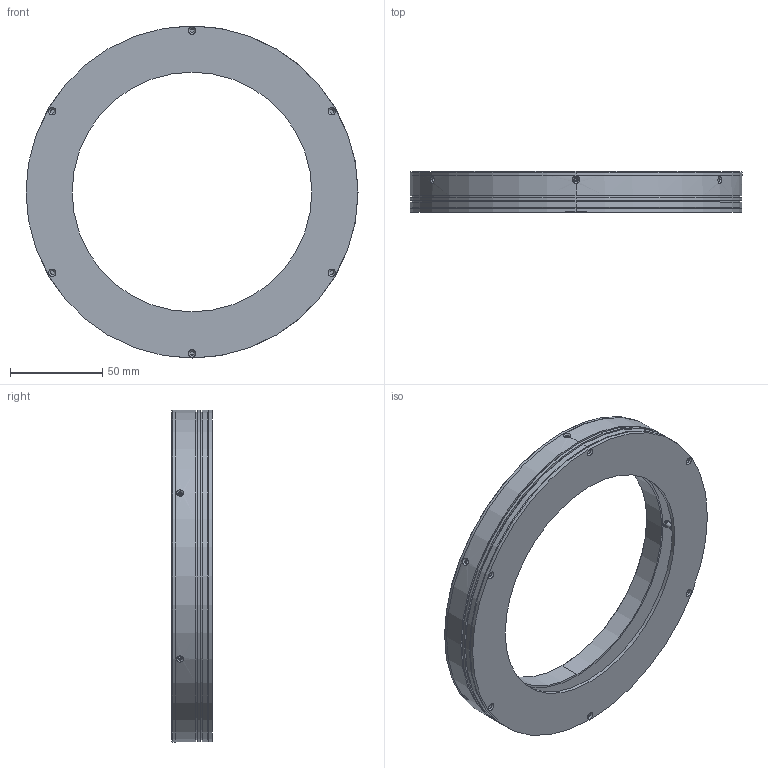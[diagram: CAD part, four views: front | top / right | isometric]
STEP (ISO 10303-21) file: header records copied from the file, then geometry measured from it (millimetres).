
FILE_DESCRIPTION (( 'STEP AP203' ), '1' );
FILE_NAME ('CRT-RL18090-¼òÒ×3DÍ¼.STEP', '2021-12-21T10:13:48', ( 'Admin' ), ( '' ), 'SwSTEP 2.0', 'SolidWorks 2018', '' );
FILE_SCHEMA (( 'CONFIG_CONTROL_DESIGN' ));
Length unit declared in the file: millimetre
Products named in the file (1): CRT-RL18090-潠眢3D芞
Bounding box: 180 x 22 x 180 mm (x, y, z)
Surface area: 82039.8 mm2 (no closed solid volume)
Topology: 0 solids, 5 shells, 119 faces, 319 edges, 207 vertices
Faces by surface type: cylinder 70, cone 30, plane 16, sphere 2, bspline 1
Entity records: 4771 total; most frequent: CARTESIAN_POINT 1688, DIRECTION 658, ORIENTED_EDGE 562, EDGE_CURVE 315, AXIS2_PLACEMENT_3D 271, VERTEX_POINT 205, EDGE_LOOP 159, CIRCLE 152
